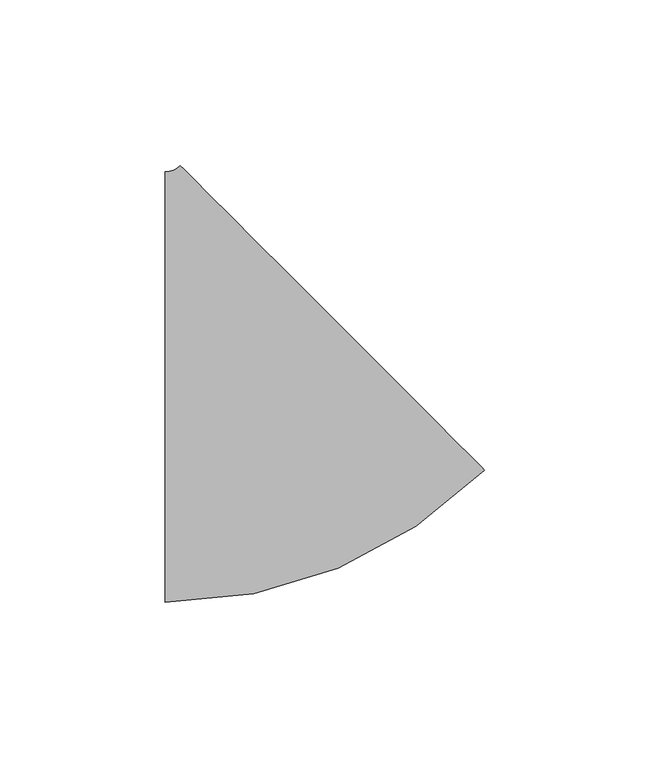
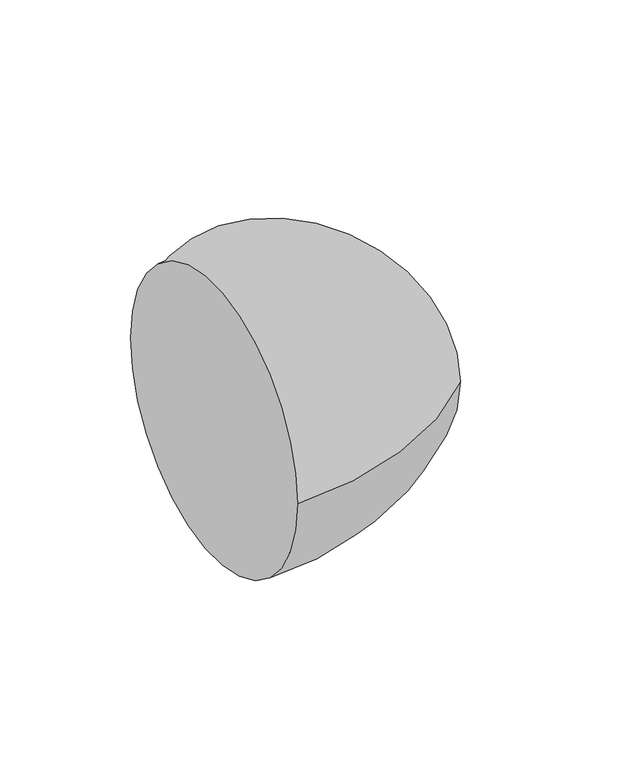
"""IFC4 building model written with IfcOpenShell, lengths in millimetres: pipe fitting geometry, M_Codo - Genérico : Estándar."""

from ifc_helpers import new_model, si_unit, point, frame, origin, place, context, project, spatial, circle_curve, ellipse_curve, trimmed, source, transform, mapped, element, save
from ifc_brep_helpers import plane_surface, revolved_surface, advanced_brep


def pipe_fitting_556f92ad(model_context):
    return source(origin(), model_context, "Body", "AdvancedBrep", [
        advanced_brep(
        [(-29.5899162, -65.0875, 0.0), (-29.5899162, 65.0875, 0.0), (66.9467641, -25.1013263, 0.0), (-25.0998381, 66.947322, 0.0)],
        [
            (0, 1, circle_curve(frame((-29.5899162, 0.0, 0.0), z_axis=(-1.0, 0.0, 0.0), x_axis=(0.0, 1.0, 0.0)), 65.0875)),
            (1, 0, circle_curve(frame((-29.5899162, 0.0, 0.0), z_axis=(-1.0, 0.0, 0.0), x_axis=(0.0, 1.0, 0.0)), 65.0875)),
            (2, 3, circle_curve(frame((20.923463, 20.9229979, 0.0), z_axis=(0.7071146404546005, 0.7070989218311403, 0.0), x_axis=(-0.7070989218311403, 0.7071146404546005, 0.0)), 65.0875)),
            (3, 2, circle_curve(frame((20.923463, 20.9229979, 0.0), z_axis=(0.7071146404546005, 0.7070989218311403, 0.0), x_axis=(-0.7070989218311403, 0.7071146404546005, 0.0)), 65.0875)),
            (3, 1, circle_curve(frame((-29.5899162, 71.4375, 0.0), z_axis=(0.0, 0.0, -1.0), x_axis=(0.0, -1.0, 0.0)), 6.35)),
            (0, 2, circle_curve(frame((-29.5899162, 71.4375, 0.0), z_axis=(0.0, 0.0, 1.0), x_axis=(0.0, -1.0, 0.0)), 136.525)),
        ],
        [
            plane_surface(frame((-29.5899162, 0.0, 0.0), z_axis=(-1.0, 0.0, 0.0), x_axis=(0.0, 0.0, 1.0))),
            plane_surface(frame((20.923463, 20.9229979, 0.0), z_axis=(0.7071146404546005, 0.7070989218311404, 0.0), x_axis=(0.0, 0.0, 1.0))),
            revolved_surface(trimmed(ellipse_curve(frame((-29.5899162, 0.0, 0.0), z_axis=(-1.0, 0.0, 0.0), x_axis=(0.0, 1.0, 0.0)), 65.0875, 65.0875), [point((-29.5899162, -65.0875, 0.0))], [point((-29.5899162, 65.0875, 0.0))], True, "CARTESIAN"), (-29.5899162, 71.4375, 0.0), (0.0, 0.0, 1.0)),
            revolved_surface(trimmed(ellipse_curve(frame((-29.5899162, 0.0, 0.0), z_axis=(-1.0, 0.0, 0.0), x_axis=(0.0, 1.0, 0.0)), 65.0875, 65.0875), [point((-29.5899162, 65.0875, 0.0))], [point((-29.5899162, -65.0875, 0.0))], True, "CARTESIAN"), (-29.5899162, 71.4375, 0.0), (0.0, 0.0, 1.0)),
        ],
        [
            (0, [[1, 2]]),
            (1, [[3, 4]]),
            (2, [[5, -1, 6, -4]]),
            (3, [[-6, -2, -5, -3]]),
        ],
    ),
    ])


if __name__ == "__main__":
    model = new_model("IFC4")
    model_context = context("Model", 3, world=origin())
    ifc_project = project(units=[si_unit("LENGTHUNIT", "METRE", prefix="MILLI")], contexts=[model_context])
    site = spatial("IfcSite", under=ifc_project)
    building = spatial("IfcBuilding", under=site)
    placement = place(None, origin())
    pipe_fitting_shape = pipe_fitting_556f92ad(model_context)
    element("IfcPipeFitting", 1, ObjectType="M_Codo - Genérico : Estándar", at=placement, inside=building, context=model_context, shape_type="MappedRepresentation", body=[
        mapped(pipe_fitting_shape, transform((0.0, 0.0, 0.0), x_axis=(1.0, 0.0, 0.0), y_axis=(0.0, 1.0, 0.0), z_axis=(0.0, 0.0, 1.0))),
    ])
    save(model, "model.ifc")
